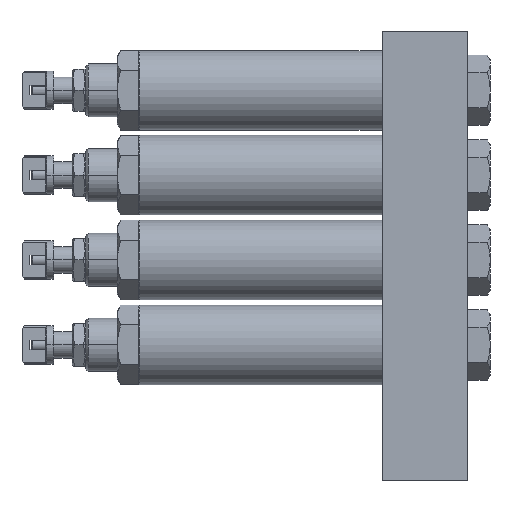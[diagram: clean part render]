
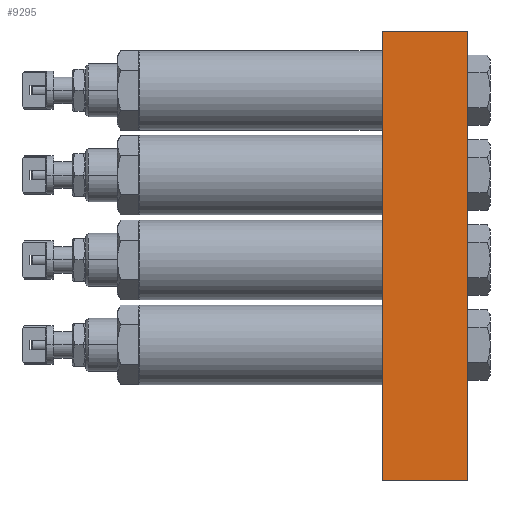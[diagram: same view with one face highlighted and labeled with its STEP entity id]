
A CAD part, left-side view. The second image highlights one B-rep face of the part: STEP entity #9295.
In plain terms, the highlighted planar face has unit normal (-1, 0, 0).
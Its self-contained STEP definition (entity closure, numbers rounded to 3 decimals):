
#1014 = EDGE_LOOP ( 'NONE', ( #3209, #14099, #10904, #6892 ) ) ;
#1467 = DIRECTION ( 'NONE',  ( 0., 0., -1. ) ) ;
#1854 = LINE ( 'NONE', #14139, #14332 ) ;
#2084 = VERTEX_POINT ( 'NONE', #5386 ) ;
#3209 = ORIENTED_EDGE ( 'NONE', *, *, #15510, .T. ) ;
#3452 = DIRECTION ( 'NONE',  ( 0., -1., 0. ) ) ;
#3478 = VECTOR ( 'NONE', #3452, 1000. ) ;
#5386 = CARTESIAN_POINT ( 'NONE',  ( -39.141, -83.285, 22. ) ) ;
#5996 = LINE ( 'NONE', #16322, #13321 ) ;
#6854 = CARTESIAN_POINT ( 'NONE',  ( -39.141, -83.285, -147. ) ) ;
#6892 = ORIENTED_EDGE ( 'NONE', *, *, #11963, .T. ) ;
#7043 = CARTESIAN_POINT ( 'NONE',  ( -39.141, -51.285, 22. ) ) ;
#7128 = CARTESIAN_POINT ( 'NONE',  ( -39.141, -51.285, 22. ) ) ;
#7370 = VERTEX_POINT ( 'NONE', #6854 ) ;
#7530 = EDGE_CURVE ( 'NONE', #14589, #2084, #10593, .T. ) ;
#7746 = CARTESIAN_POINT ( 'NONE',  ( -39.141, -51.285, 22. ) ) ;
#7851 = DIRECTION ( 'NONE',  ( 1., 0., 0. ) ) ;
#8439 = CARTESIAN_POINT ( 'NONE',  ( -39.141, -51.285, -147. ) ) ;
#9295 = ADVANCED_FACE ( 'NONE', ( #12318 ), #14192, .F. ) ;
#10217 = DIRECTION ( 'NONE',  ( 0., 0., 1. ) ) ;
#10259 = EDGE_CURVE ( 'NONE', #10902, #14589, #15557, .T. ) ;
#10593 = LINE ( 'NONE', #7128, #3478 ) ;
#10902 = VERTEX_POINT ( 'NONE', #8439 ) ;
#10904 = ORIENTED_EDGE ( 'NONE', *, *, #10259, .F. ) ;
#11184 = VECTOR ( 'NONE', #10217, 1000. ) ;
#11963 = EDGE_CURVE ( 'NONE', #10902, #7370, #1854, .T. ) ;
#12318 = FACE_OUTER_BOUND ( 'NONE', #1014, .T. ) ;
#12839 = DIRECTION ( 'NONE',  ( 0., -1., 0. ) ) ;
#13321 = VECTOR ( 'NONE', #16255, 1000. ) ;
#14000 = CARTESIAN_POINT ( 'NONE',  ( -39.141, -51.285, 22. ) ) ;
#14099 = ORIENTED_EDGE ( 'NONE', *, *, #7530, .F. ) ;
#14139 = CARTESIAN_POINT ( 'NONE',  ( -39.141, -51.285, -147. ) ) ;
#14192 = PLANE ( 'NONE',  #16357 ) ;
#14332 = VECTOR ( 'NONE', #12839, 1000. ) ;
#14589 = VERTEX_POINT ( 'NONE', #7043 ) ;
#15510 = EDGE_CURVE ( 'NONE', #7370, #2084, #5996, .T. ) ;
#15557 = LINE ( 'NONE', #14000, #11184 ) ;
#16255 = DIRECTION ( 'NONE',  ( 0., 0., 1. ) ) ;
#16322 = CARTESIAN_POINT ( 'NONE',  ( -39.141, -83.285, 22. ) ) ;
#16357 = AXIS2_PLACEMENT_3D ( 'NONE', #7746, #7851, #1467 ) ;
